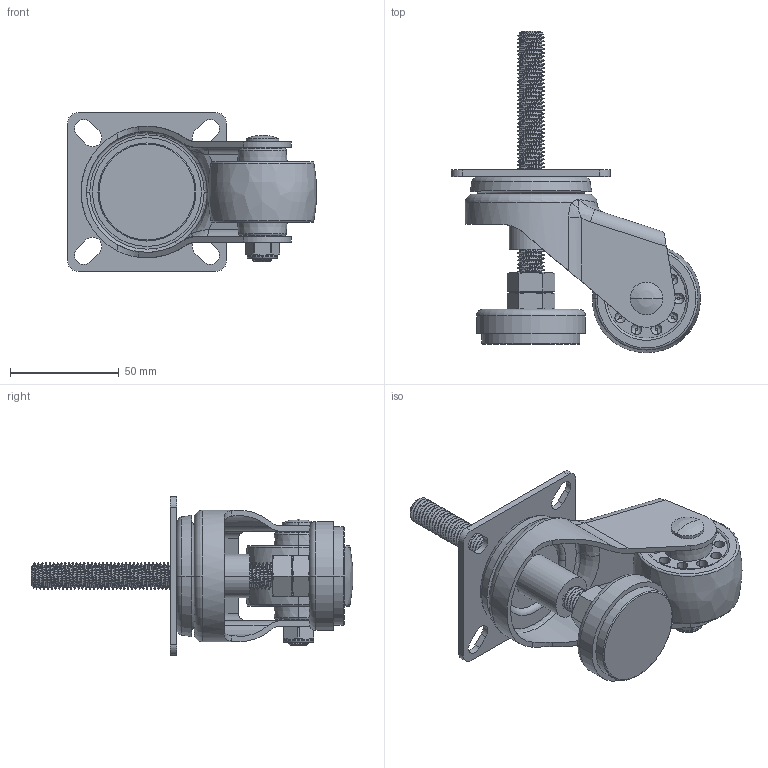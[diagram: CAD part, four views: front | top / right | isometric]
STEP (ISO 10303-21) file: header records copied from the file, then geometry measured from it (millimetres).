
FILE_DESCRIPTION((''),'2;1');
FILE_NAME('M46112_ASM','2021-12-28T',('lenovo'),(''),'PRO/ENGINEER BY PARAMETRIC TECHNOLOGY CORPORATION, 2010280','PRO/ENGINEER BY PARAMETRIC TECHNOLOGY CORPORATION, 2010280','');
FILE_SCHEMA(('CONFIG_CONTROL_DESIGN'));
Length unit declared in the file: millimetre
Products named in the file (7): M4612; M4612-311; M462-924; 570-33; 570-34; M4612-432-120; M46112_ASM
Assembly tree (6 placements, depth 2):
  M46112_ASM
    M4612
    M4612-311
    M462-924
    570-33
    570-34
    M4612-432-120
Bounding box: 114.35 x 147.53 x 73 mm (x, y, z)
Volume: 155339.8 mm3; surface area: 66846.7 mm2
Topology: 6 solids, 6 shells, 548 faces, 1348 edges, 846 vertices
Faces by surface type: cylinder 246, bspline 130, plane 92, cone 46, torus 32, sphere 2
Entity records: 34901 total; most frequent: CARTESIAN_POINT 22896, ORIENTED_EDGE 2692, DIRECTION 2113, EDGE_CURVE 1346, VERTEX_POINT 846, AXIS2_PLACEMENT_3D 843, EDGE_LOOP 604, FACE_OUTER_BOUND 548
